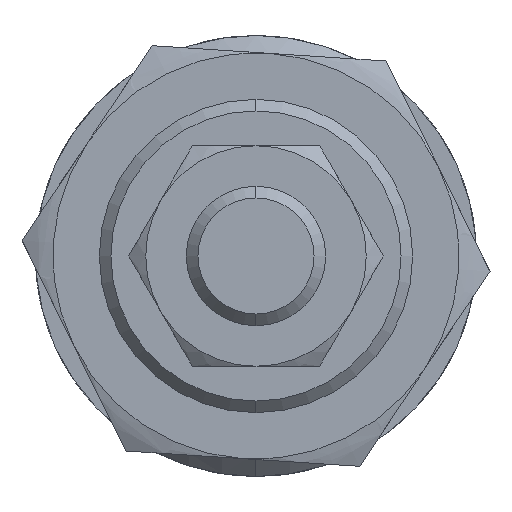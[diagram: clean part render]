
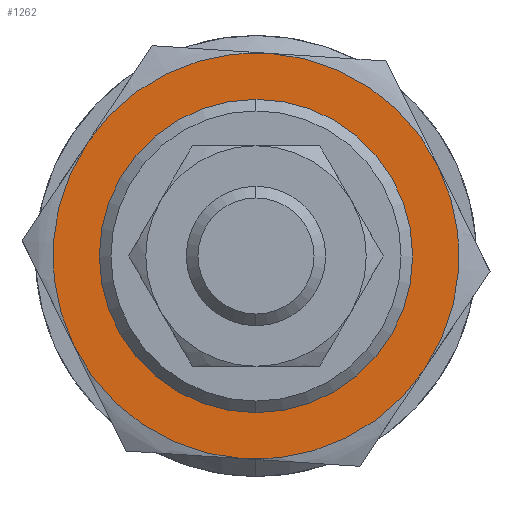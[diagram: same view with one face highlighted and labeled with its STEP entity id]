
A CAD part, left-side view. The second image highlights one B-rep face of the part: STEP entity #1262.
In plain terms, the highlighted planar face has unit normal (-1, 0, 0) as drawn and (0, 0, -1) by its records, which use the part's own axes.
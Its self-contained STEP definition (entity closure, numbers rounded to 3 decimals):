
#7 = VERTEX_POINT ( 'NONE', #1401 ) ;
#41 = CARTESIAN_POINT ( 'NONE',  ( 0., 0., -5. ) ) ;
#45 = CIRCLE ( 'NONE', #2828, 12.5 ) ;
#47 = DIRECTION ( 'NONE',  ( 1., 0., 0. ) ) ;
#70 = DIRECTION ( 'NONE',  ( 1., 0., 0. ) ) ;
#87 = DIRECTION ( 'NONE',  ( 1., 0., 0. ) ) ;
#99 = AXIS2_PLACEMENT_3D ( 'NONE', #2213, #2268, #3236 ) ;
#159 = AXIS2_PLACEMENT_3D ( 'NONE', #41, #3074, #47 ) ;
#174 = CIRCLE ( 'NONE', #3021, 12.5 ) ;
#199 = CIRCLE ( 'NONE', #99, 17.5 ) ;
#259 = AXIS2_PLACEMENT_3D ( 'NONE', #3254, #1388, #2128 ) ;
#305 = EDGE_LOOP ( 'NONE', ( #2122, #958 ) ) ;
#456 = ORIENTED_EDGE ( 'NONE', *, *, #1552, .F. ) ;
#486 = VERTEX_POINT ( 'NONE', #3068 ) ;
#528 = VERTEX_POINT ( 'NONE', #2786 ) ;
#890 = EDGE_CURVE ( 'NONE', #3454, #1100, #174, .T. ) ;
#958 = ORIENTED_EDGE ( 'NONE', *, *, #3352, .T. ) ;
#1055 = VERTEX_POINT ( 'NONE', #2333 ) ;
#1065 = FACE_BOUND ( 'NONE', #305, .T. ) ;
#1067 = DIRECTION ( 'NONE',  ( 0., 0., 1. ) ) ;
#1100 = VERTEX_POINT ( 'NONE', #2618 ) ;
#1125 = CARTESIAN_POINT ( 'NONE',  ( -17.5, 0., -5. ) ) ;
#1236 = CIRCLE ( 'NONE', #3102, 17.5 ) ;
#1262 = ADVANCED_FACE ( 'NONE', ( #1065, #3466 ), #2018, .F. ) ;
#1282 = ORIENTED_EDGE ( 'NONE', *, *, #2750, .F. ) ;
#1362 = DIRECTION ( 'NONE',  ( 0., 0., 1. ) ) ;
#1387 = CARTESIAN_POINT ( 'NONE',  ( 0., 0., -5. ) ) ;
#1388 = DIRECTION ( 'NONE',  ( 0., 0., 1. ) ) ;
#1401 = CARTESIAN_POINT ( 'NONE',  ( -8.75, -15.155, -5. ) ) ;
#1412 = EDGE_CURVE ( 'NONE', #1055, #528, #3345, .T. ) ;
#1482 = CARTESIAN_POINT ( 'NONE',  ( 12.5, 0., -5. ) ) ;
#1552 = EDGE_CURVE ( 'NONE', #528, #1701, #3032, .T. ) ;
#1679 = VERTEX_POINT ( 'NONE', #2925 ) ;
#1701 = VERTEX_POINT ( 'NONE', #1125 ) ;
#1822 = CIRCLE ( 'NONE', #2530, 17.5 ) ;
#1873 = CARTESIAN_POINT ( 'NONE',  ( 0., 0., -5. ) ) ;
#1973 = CIRCLE ( 'NONE', #2472, 17.5 ) ;
#2018 = PLANE ( 'NONE',  #259 ) ;
#2028 = ORIENTED_EDGE ( 'NONE', *, *, #3072, .F. ) ;
#2113 = DIRECTION ( 'NONE',  ( 0., 0., 1. ) ) ;
#2122 = ORIENTED_EDGE ( 'NONE', *, *, #890, .T. ) ;
#2128 = DIRECTION ( 'NONE',  ( 1., 0., 0. ) ) ;
#2211 = EDGE_LOOP ( 'NONE', ( #2887, #1282, #2028, #2235, #456, #3216 ) ) ;
#2213 = CARTESIAN_POINT ( 'NONE',  ( 0., 0., -5. ) ) ;
#2235 = ORIENTED_EDGE ( 'NONE', *, *, #3096, .F. ) ;
#2268 = DIRECTION ( 'NONE',  ( 0., 0., 1. ) ) ;
#2289 = DIRECTION ( 'NONE',  ( 1., 0., 0. ) ) ;
#2332 = DIRECTION ( 'NONE',  ( 0., 0., 1. ) ) ;
#2333 = CARTESIAN_POINT ( 'NONE',  ( 8.75, 15.155, -5. ) ) ;
#2421 = AXIS2_PLACEMENT_3D ( 'NONE', #2580, #1067, #2844 ) ;
#2429 = DIRECTION ( 'NONE',  ( 0., 0., 1. ) ) ;
#2472 = AXIS2_PLACEMENT_3D ( 'NONE', #1873, #2332, #87 ) ;
#2530 = AXIS2_PLACEMENT_3D ( 'NONE', #3446, #1362, #3099 ) ;
#2580 = CARTESIAN_POINT ( 'NONE',  ( 0., 0., -5. ) ) ;
#2618 = CARTESIAN_POINT ( 'NONE',  ( -12.5, 0., -5. ) ) ;
#2641 = EDGE_CURVE ( 'NONE', #486, #1055, #1822, .T. ) ;
#2750 = EDGE_CURVE ( 'NONE', #1679, #486, #1236, .T. ) ;
#2786 = CARTESIAN_POINT ( 'NONE',  ( -8.75, 15.155, -5. ) ) ;
#2828 = AXIS2_PLACEMENT_3D ( 'NONE', #3004, #2113, #3240 ) ;
#2844 = DIRECTION ( 'NONE',  ( 1., 0., 0. ) ) ;
#2887 = ORIENTED_EDGE ( 'NONE', *, *, #2641, .F. ) ;
#2925 = CARTESIAN_POINT ( 'NONE',  ( 8.75, -15.155, -5. ) ) ;
#3004 = CARTESIAN_POINT ( 'NONE',  ( 0., 0., -5. ) ) ;
#3021 = AXIS2_PLACEMENT_3D ( 'NONE', #1387, #3376, #2289 ) ;
#3032 = CIRCLE ( 'NONE', #2421, 17.5 ) ;
#3068 = CARTESIAN_POINT ( 'NONE',  ( 17.5, 0., -5. ) ) ;
#3072 = EDGE_CURVE ( 'NONE', #7, #1679, #1973, .T. ) ;
#3074 = DIRECTION ( 'NONE',  ( 0., 0., 1. ) ) ;
#3096 = EDGE_CURVE ( 'NONE', #1701, #7, #199, .T. ) ;
#3099 = DIRECTION ( 'NONE',  ( 1., 0., 0. ) ) ;
#3102 = AXIS2_PLACEMENT_3D ( 'NONE', #3392, #2429, #70 ) ;
#3216 = ORIENTED_EDGE ( 'NONE', *, *, #1412, .F. ) ;
#3236 = DIRECTION ( 'NONE',  ( 1., 0., 0. ) ) ;
#3240 = DIRECTION ( 'NONE',  ( 1., 0., 0. ) ) ;
#3254 = CARTESIAN_POINT ( 'NONE',  ( 0., 0., -5. ) ) ;
#3345 = CIRCLE ( 'NONE', #159, 17.5 ) ;
#3352 = EDGE_CURVE ( 'NONE', #1100, #3454, #45, .T. ) ;
#3376 = DIRECTION ( 'NONE',  ( 0., 0., 1. ) ) ;
#3392 = CARTESIAN_POINT ( 'NONE',  ( 0., 0., -5. ) ) ;
#3446 = CARTESIAN_POINT ( 'NONE',  ( 0., 0., -5. ) ) ;
#3454 = VERTEX_POINT ( 'NONE', #1482 ) ;
#3466 = FACE_OUTER_BOUND ( 'NONE', #2211, .T. ) ;
